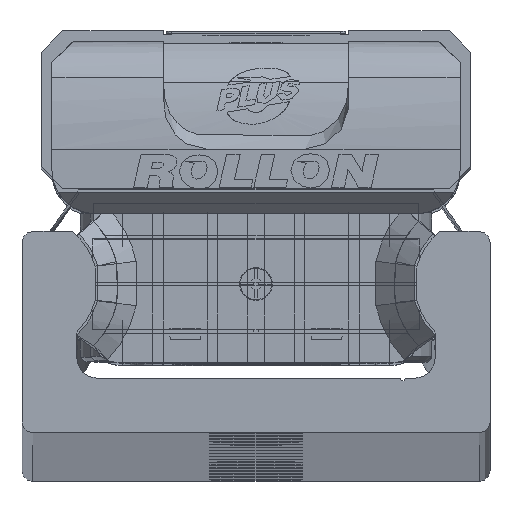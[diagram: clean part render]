
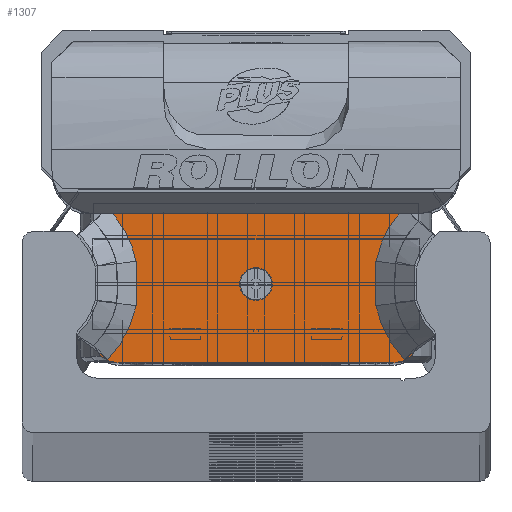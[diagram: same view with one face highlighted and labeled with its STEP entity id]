
A CAD part, top view. The second image highlights one B-rep face of the part: STEP entity #1307.
In plain terms, the highlighted planar face has unit normal (0, 0, 1) as drawn and (0, 0, -1) by its records, which use the part's own axes.
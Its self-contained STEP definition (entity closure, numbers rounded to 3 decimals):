
#1307 = ADVANCED_FACE( '', ( #3060, #3061 ), #3062, .F. );
#3060 = FACE_BOUND( '', #5495, .T. );
#3061 = FACE_OUTER_BOUND( '', #5496, .T. );
#3062 = PLANE( '', #5497 );
#5495 = EDGE_LOOP( '', ( #9140 ) );
#5496 = EDGE_LOOP( '', ( #9141, #9142, #9143, #9144, #9145, #9146, #9147, #9148, #9149, #9150, #9151, #9152 ) );
#5497 = AXIS2_PLACEMENT_3D( '', #9153, #9154, #9155 );
#9140 = ORIENTED_EDGE( '', *, *, #14332, .T. );
#9141 = ORIENTED_EDGE( '', *, *, #14333, .T. );
#9142 = ORIENTED_EDGE( '', *, *, #14334, .F. );
#9143 = ORIENTED_EDGE( '', *, *, #14335, .T. );
#9144 = ORIENTED_EDGE( '', *, *, #14336, .F. );
#9145 = ORIENTED_EDGE( '', *, *, #14337, .T. );
#9146 = ORIENTED_EDGE( '', *, *, #14306, .T. );
#9147 = ORIENTED_EDGE( '', *, *, #14338, .T. );
#9148 = ORIENTED_EDGE( '', *, *, #14339, .T. );
#9149 = ORIENTED_EDGE( '', *, *, #13385, .T. );
#9150 = ORIENTED_EDGE( '', *, *, #14290, .T. );
#9151 = ORIENTED_EDGE( '', *, *, #14340, .T. );
#9152 = ORIENTED_EDGE( '', *, *, #14341, .T. );
#9153 = CARTESIAN_POINT( '', ( 14.9, 7.35, -13.25 ) );
#9154 = DIRECTION( '', ( 0., 0., 1. ) );
#9155 = DIRECTION( '', ( 1., 0., 0. ) );
#13385 = EDGE_CURVE( '', #15814, #15812, #15815, .T. );
#14290 = EDGE_CURVE( '', #15812, #17318, #17320, .T. );
#14306 = EDGE_CURVE( '', #17345, #17343, #17346, .T. );
#14332 = EDGE_CURVE( '', #17387, #17387, #17388, .T. );
#14333 = EDGE_CURVE( '', #17389, #15985, #17390, .T. );
#14334 = EDGE_CURVE( '', #17391, #15985, #17392, .T. );
#14335 = EDGE_CURVE( '', #17391, #17393, #17394, .T. );
#14336 = EDGE_CURVE( '', #17395, #17393, #17396, .T. );
#14337 = EDGE_CURVE( '', #17395, #17345, #17397, .T. );
#14338 = EDGE_CURVE( '', #17343, #17398, #17399, .T. );
#14339 = EDGE_CURVE( '', #17398, #15814, #17400, .T. );
#14340 = EDGE_CURVE( '', #17318, #17401, #17402, .T. );
#14341 = EDGE_CURVE( '', #17401, #17389, #17403, .T. );
#15812 = VERTEX_POINT( '', #19413 );
#15814 = VERTEX_POINT( '', #19418 );
#15815 = LINE( '', #19419, #19420 );
#15985 = VERTEX_POINT( '', #19665 );
#17318 = VERTEX_POINT( '', #21407 );
#17320 = B_SPLINE_CURVE_WITH_KNOTS( '', 2, ( #21410, #21411, #21412, #21413, #21414 ), .UNSPECIFIED., .F., .F., ( 3, 2, 3 ), ( 0.133, 0.5, 1. ), .UNSPECIFIED. );
#17343 = VERTEX_POINT( '', #21441 );
#17345 = VERTEX_POINT( '', #21444 );
#17346 = B_SPLINE_CURVE_WITH_KNOTS( '', 2, ( #21445, #21446, #21447, #21448, #21449 ), .UNSPECIFIED., .F., .F., ( 3, 2, 3 ), ( 0., 0.5, 1. ), .UNSPECIFIED. );
#17387 = VERTEX_POINT( '', #21500 );
#17388 = CIRCLE( '', #21501, 1.5 );
#17389 = VERTEX_POINT( '', #21502 );
#17390 = B_SPLINE_CURVE_WITH_KNOTS( '', 1, ( #21503, #21504 ), .UNSPECIFIED., .F., .F., ( 2, 2 ), ( 0., 1. ), .UNSPECIFIED. );
#17391 = VERTEX_POINT( '', #21505 );
#17392 = CIRCLE( '', #21506, 2.5 );
#17393 = VERTEX_POINT( '', #21507 );
#17394 = LINE( '', #21508, #21509 );
#17395 = VERTEX_POINT( '', #21510 );
#17396 = CIRCLE( '', #21511, 2.5 );
#17397 = B_SPLINE_CURVE_WITH_KNOTS( '', 1, ( #21512, #21513 ), .UNSPECIFIED., .F., .F., ( 2, 2 ), ( 0., 1. ), .UNSPECIFIED. );
#17398 = VERTEX_POINT( '', #21514 );
#17399 = B_SPLINE_CURVE_WITH_KNOTS( '', 2, ( #21515, #21516, #21517 ), .UNSPECIFIED., .F., .F., ( 3, 3 ), ( 0., 1. ), .UNSPECIFIED. );
#17400 = B_SPLINE_CURVE_WITH_KNOTS( '', 2, ( #21518, #21519, #21520, #21521, #21522 ), .UNSPECIFIED., .F., .F., ( 3, 2, 3 ), ( 0., 0.5, 0.868 ), .UNSPECIFIED. );
#17401 = VERTEX_POINT( '', #21523 );
#17402 = B_SPLINE_CURVE_WITH_KNOTS( '', 2, ( #21524, #21525, #21526 ), .UNSPECIFIED., .F., .F., ( 3, 3 ), ( 0., 1. ), .UNSPECIFIED. );
#17403 = B_SPLINE_CURVE_WITH_KNOTS( '', 2, ( #21527, #21528, #21529, #21530, #21531 ), .UNSPECIFIED., .F., .F., ( 3, 2, 3 ), ( 0., 0.5, 1. ), .UNSPECIFIED. );
#19413 = CARTESIAN_POINT( '', ( 13.12, 6.4, -13.25 ) );
#19418 = CARTESIAN_POINT( '', ( -13.119, 6.4, -13.25 ) );
#19419 = CARTESIAN_POINT( '', ( 14.9, 6.4, -13.25 ) );
#19420 = VECTOR( '', #24068, 1000. );
#19665 = CARTESIAN_POINT( '', ( 14.906, -5.717, -13.25 ) );
#21407 = CARTESIAN_POINT( '', ( 11.012, 2.045, -13.25 ) );
#21410 = CARTESIAN_POINT( '', ( 13.119, 6.4, -13.25 ) );
#21411 = CARTESIAN_POINT( '', ( 12.459, 5.608, -13.25 ) );
#21412 = CARTESIAN_POINT( '', ( 11.968, 4.684, -13.25 ) );
#21413 = CARTESIAN_POINT( '', ( 11.301, 3.427, -13.25 ) );
#21414 = CARTESIAN_POINT( '', ( 11.012, 2.045, -13.25 ) );
#21441 = CARTESIAN_POINT( '', ( -11.012, -2.045, -13.25 ) );
#21444 = CARTESIAN_POINT( '', ( -13.628, -6.965, -13.25 ) );
#21445 = CARTESIAN_POINT( '', ( -13.628, -6.965, -13.25 ) );
#21446 = CARTESIAN_POINT( '', ( -12.638, -5.946, -13.25 ) );
#21447 = CARTESIAN_POINT( '', ( -11.97, -4.691, -13.25 ) );
#21448 = CARTESIAN_POINT( '', ( -11.303, -3.437, -13.25 ) );
#21449 = CARTESIAN_POINT( '', ( -11.012, -2.045, -13.25 ) );
#21500 = CARTESIAN_POINT( '', ( 1.5, -0.05, -13.25 ) );
#21501 = AXIS2_PLACEMENT_3D( '', #25395, #25396, #25397 );
#21502 = CARTESIAN_POINT( '', ( 13.628, -6.965, -13.25 ) );
#21503 = CARTESIAN_POINT( '', ( 13.628, -6.965, -13.25 ) );
#21504 = CARTESIAN_POINT( '', ( 14.9, -5.728, -13.25 ) );
#21505 = CARTESIAN_POINT( '', ( 12.58, -7.3, -13.25 ) );
#21506 = AXIS2_PLACEMENT_3D( '', #25398, #25399, #25400 );
#21507 = CARTESIAN_POINT( '', ( -12.58, -7.3, -13.25 ) );
#21508 = CARTESIAN_POINT( '', ( 12.58, -7.3, -13.25 ) );
#21509 = VECTOR( '', #25401, 1000. );
#21510 = CARTESIAN_POINT( '', ( -14.904, -5.718, -13.25 ) );
#21511 = AXIS2_PLACEMENT_3D( '', #25402, #25403, #25404 );
#21512 = CARTESIAN_POINT( '', ( -14.915, -5.713, -13.25 ) );
#21513 = CARTESIAN_POINT( '', ( -13.628, -6.965, -13.25 ) );
#21514 = CARTESIAN_POINT( '', ( -11.012, 2.045, -13.25 ) );
#21515 = CARTESIAN_POINT( '', ( -11.012, -2.045, -13.25 ) );
#21516 = CARTESIAN_POINT( '', ( -10.888, 0., -13.25 ) );
#21517 = CARTESIAN_POINT( '', ( -11.012, 2.045, -13.25 ) );
#21518 = CARTESIAN_POINT( '', ( -11.012, 2.045, -13.25 ) );
#21519 = CARTESIAN_POINT( '', ( -11.302, 3.432, -13.25 ) );
#21520 = CARTESIAN_POINT( '', ( -11.967, 4.685, -13.25 ) );
#21521 = CARTESIAN_POINT( '', ( -12.456, 5.606, -13.25 ) );
#21522 = CARTESIAN_POINT( '', ( -13.119, 6.4, -13.25 ) );
#21523 = CARTESIAN_POINT( '', ( 11.012, -2.045, -13.25 ) );
#21524 = CARTESIAN_POINT( '', ( 11.012, 2.045, -13.25 ) );
#21525 = CARTESIAN_POINT( '', ( 10.888, 0., -13.25 ) );
#21526 = CARTESIAN_POINT( '', ( 11.012, -2.045, -13.25 ) );
#21527 = CARTESIAN_POINT( '', ( 11.012, -2.045, -13.25 ) );
#21528 = CARTESIAN_POINT( '', ( 11.301, -3.43, -13.25 ) );
#21529 = CARTESIAN_POINT( '', ( 11.972, -4.69, -13.25 ) );
#21530 = CARTESIAN_POINT( '', ( 12.642, -5.95, -13.25 ) );
#21531 = CARTESIAN_POINT( '', ( 13.628, -6.965, -13.25 ) );
#24068 = DIRECTION( '', ( 1., 0., 0. ) );
#25395 = CARTESIAN_POINT( '', ( 0., -0.05, -13.25 ) );
#25396 = DIRECTION( '', ( 0., 0., 1. ) );
#25397 = DIRECTION( '', ( 1., 0., 0. ) );
#25398 = CARTESIAN_POINT( '', ( 12.58, -4.8, -13.25 ) );
#25399 = DIRECTION( '', ( 0., 0., 1. ) );
#25400 = DIRECTION( '', ( 1., 0., 0. ) );
#25401 = DIRECTION( '', ( -1., 0., 0. ) );
#25402 = CARTESIAN_POINT( '', ( -12.58, -4.8, -13.25 ) );
#25403 = DIRECTION( '', ( 0., 0., 1. ) );
#25404 = DIRECTION( '', ( 1., 0., 0. ) );
